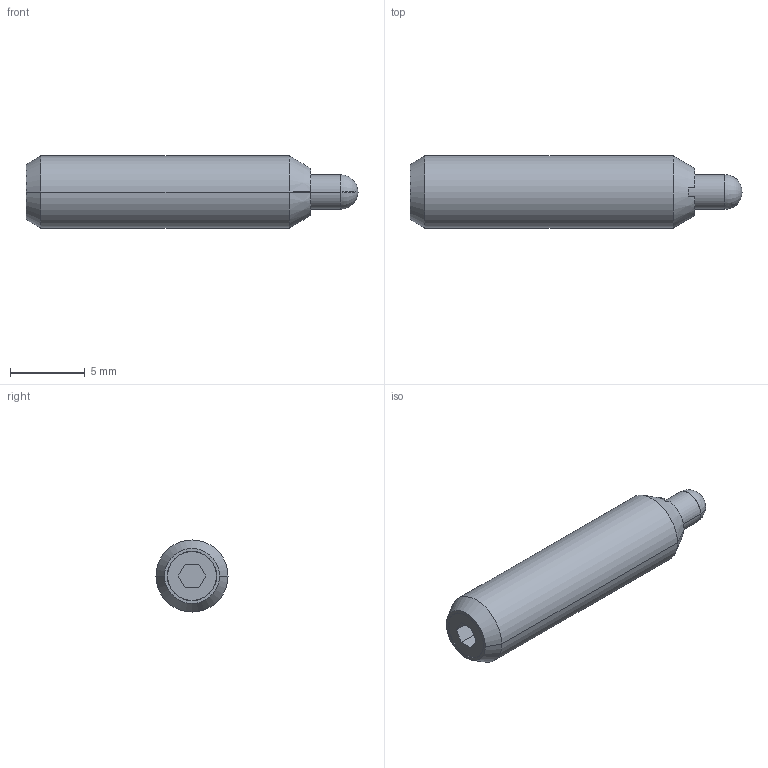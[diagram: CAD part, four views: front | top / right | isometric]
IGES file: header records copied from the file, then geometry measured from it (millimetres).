
Start section:  PTC IGES file: s52-3d.igs
Global section: file name: s52-3d.igs; native system: Pro/ENGINEER by Parametric Technology Corporation; preprocessor: 2002350; author: chant; organization: Unknown; date: 061031.134732; units: inch
Bounding box: 22.23 x 4.83 x 4.83 mm (x, y, z)
Surface area: 364.3 mm2 (no closed solid volume)
Topology: 0 solids, 0 shells, 32 faces, 222 edges, 280 vertices
Faces by surface type: bspline 16, revolution 16
